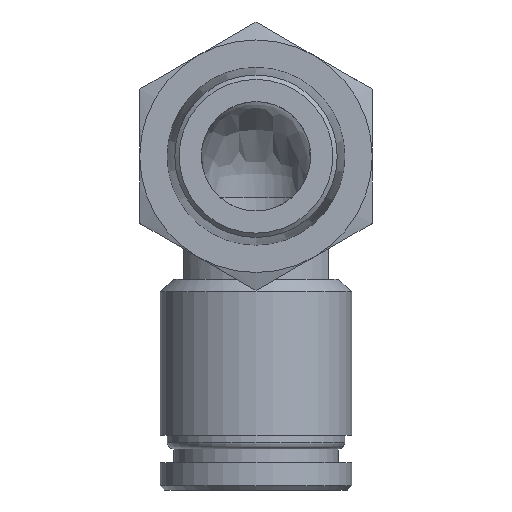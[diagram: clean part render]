
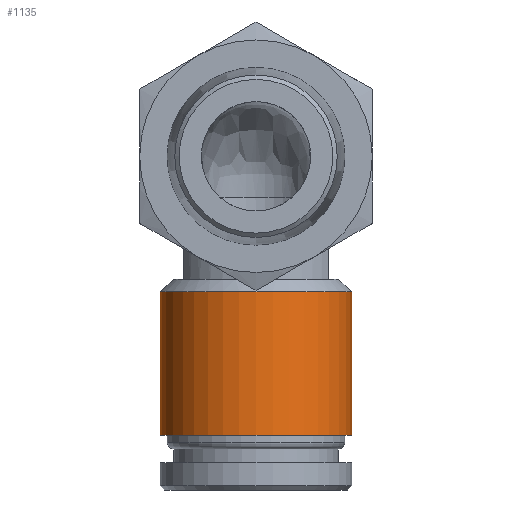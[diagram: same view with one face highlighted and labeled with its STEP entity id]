
A CAD part, front view. The second image highlights one B-rep face of the part: STEP entity #1135.
In plain terms, the highlighted cylindrical face has radius 7 mm (diameter 14 mm), a full revolution.
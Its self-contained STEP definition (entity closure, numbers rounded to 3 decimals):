
#81=CYLINDRICAL_SURFACE('',#1281,7.);
#144=FACE_OUTER_BOUND('',#221,.T.);
#221=EDGE_LOOP('',(#982,#983,#984,#985));
#284=CIRCLE('',#1274,7.);
#287=CIRCLE('',#1280,7.);
#363=LINE('',#1986,#435);
#435=VECTOR('',#1591,7.);
#534=VERTEX_POINT('',#1973);
#536=VERTEX_POINT('',#1983);
#685=EDGE_CURVE('',#534,#534,#284,.T.);
#689=EDGE_CURVE('',#536,#536,#287,.T.);
#690=EDGE_CURVE('',#534,#536,#363,.T.);
#982=ORIENTED_EDGE('',*,*,#685,.F.);
#983=ORIENTED_EDGE('',*,*,#690,.T.);
#984=ORIENTED_EDGE('',*,*,#689,.T.);
#985=ORIENTED_EDGE('',*,*,#690,.F.);
#1135=ADVANCED_FACE('',(#144),#81,.T.);
#1274=AXIS2_PLACEMENT_3D('',#1975,#1574,#1575);
#1280=AXIS2_PLACEMENT_3D('',#1984,#1587,#1588);
#1281=AXIS2_PLACEMENT_3D('',#1985,#1589,#1590);
#1574=DIRECTION('center_axis',(0.,0.,1.));
#1575=DIRECTION('ref_axis',(1.,0.,0.));
#1587=DIRECTION('center_axis',(0.,0.,1.));
#1588=DIRECTION('ref_axis',(1.,0.,0.));
#1589=DIRECTION('center_axis',(0.,0.,1.));
#1590=DIRECTION('ref_axis',(0.,-1.,0.));
#1591=DIRECTION('',(0.,0.,-1.));
#1973=CARTESIAN_POINT('',(0.,19.6,-9.9));
#1975=CARTESIAN_POINT('Origin',(0.,12.6,-9.9));
#1983=CARTESIAN_POINT('',(0.,19.6,-20.4));
#1984=CARTESIAN_POINT('Origin',(0.,12.6,-20.4));
#1985=CARTESIAN_POINT('Origin',(0.,12.6,-15.15));
#1986=CARTESIAN_POINT('',(0.,19.6,-15.15));
